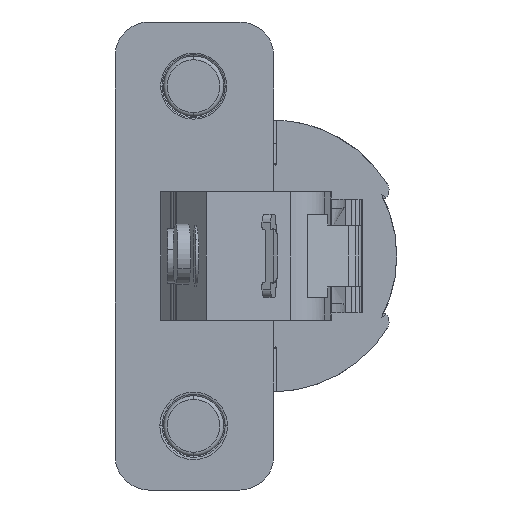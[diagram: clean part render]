
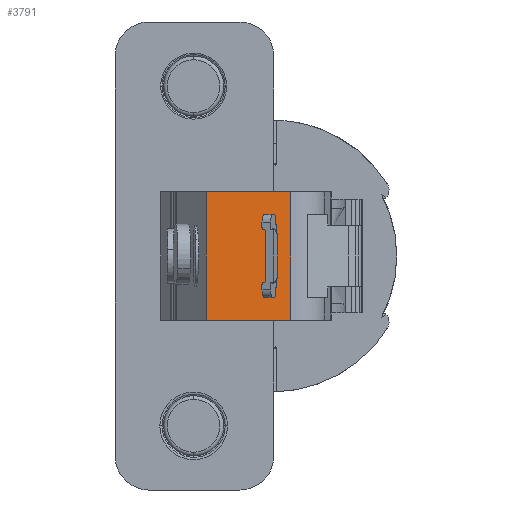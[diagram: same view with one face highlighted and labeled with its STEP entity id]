
A CAD part, left-side view. The second image highlights one B-rep face of the part: STEP entity #3791.
In plain terms, the highlighted planar face has unit normal (-0.997, -0.081, 0).
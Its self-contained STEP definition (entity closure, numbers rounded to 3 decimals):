
#43 = VERTEX_POINT ( 'NONE', #1302 ) ;
#149 = VERTEX_POINT ( 'NONE', #4550 ) ;
#368 = LINE ( 'NONE', #3302, #7829 ) ;
#495 = VERTEX_POINT ( 'NONE', #7207 ) ;
#537 = FACE_BOUND ( 'NONE', #9036, .T. ) ;
#635 = VECTOR ( 'NONE', #7221, 1000. ) ;
#704 = DIRECTION ( 'NONE',  ( 0.997, 0.081, 0. ) ) ;
#762 = LINE ( 'NONE', #7884, #635 ) ;
#1044 = EDGE_CURVE ( 'NONE', #43, #9307, #5259, .T. ) ;
#1302 = CARTESIAN_POINT ( 'NONE',  ( -78.577, 18.348, -3.133 ) ) ;
#1346 = CARTESIAN_POINT ( 'NONE',  ( -78.36, 15.673, -19.533 ) ) ;
#1447 = ORIENTED_EDGE ( 'NONE', *, *, #2848, .F. ) ;
#1501 = ORIENTED_EDGE ( 'NONE', *, *, #4843, .T. ) ;
#1725 = EDGE_CURVE ( 'NONE', #8304, #8480, #4923, .T. ) ;
#1742 = VECTOR ( 'NONE', #2145, 1000. ) ;
#2145 = DIRECTION ( 'NONE',  ( 0., 0., 1. ) ) ;
#2149 = FACE_OUTER_BOUND ( 'NONE', #5169, .T. ) ;
#2231 = ORIENTED_EDGE ( 'NONE', *, *, #1044, .T. ) ;
#2332 = DIRECTION ( 'NONE',  ( -0.081, 0.997, 0. ) ) ;
#2368 = VERTEX_POINT ( 'NONE', #7615 ) ;
#2462 = CARTESIAN_POINT ( 'NONE',  ( -78.423, 16.443, -7.533 ) ) ;
#2634 = LINE ( 'NONE', #3898, #8587 ) ;
#2698 = CARTESIAN_POINT ( 'NONE',  ( -78.423, 16.443, -23.533 ) ) ;
#2725 = ORIENTED_EDGE ( 'NONE', *, *, #4778, .F. ) ;
#2812 = ORIENTED_EDGE ( 'NONE', *, *, #7138, .T. ) ;
#2848 = EDGE_CURVE ( 'NONE', #6232, #9307, #2634, .T. ) ;
#3302 = CARTESIAN_POINT ( 'NONE',  ( -79.413, 28.65, -7.533 ) ) ;
#3525 = DIRECTION ( 'NONE',  ( 0.081, -0.997, 0. ) ) ;
#3791 = ADVANCED_FACE ( 'NONE', ( #537, #2149 ), #8631, .F. ) ;
#3898 = CARTESIAN_POINT ( 'NONE',  ( -78.675, 19.547, -85.824 ) ) ;
#4485 = CARTESIAN_POINT ( 'NONE',  ( -79.209, 26.131, -3.133 ) ) ;
#4550 = CARTESIAN_POINT ( 'NONE',  ( -79.33, 27.627, -7.533 ) ) ;
#4631 = ORIENTED_EDGE ( 'NONE', *, *, #6389, .F. ) ;
#4778 = EDGE_CURVE ( 'NONE', #8480, #149, #368, .T. ) ;
#4843 = EDGE_CURVE ( 'NONE', #6232, #2368, #9206, .T. ) ;
#4923 = LINE ( 'NONE', #2698, #7153 ) ;
#5083 = DIRECTION ( 'NONE',  ( 0., 0., -1. ) ) ;
#5169 = EDGE_LOOP ( 'NONE', ( #4631, #2725, #7456, #2812 ) ) ;
#5259 = LINE ( 'NONE', #4485, #7364 ) ;
#5311 = VECTOR ( 'NONE', #3525, 1000. ) ;
#5537 = DIRECTION ( 'NONE',  ( 0., 0., -1. ) ) ;
#5746 = LINE ( 'NONE', #8578, #1742 ) ;
#5835 = LINE ( 'NONE', #6517, #7134 ) ;
#5867 = ORIENTED_EDGE ( 'NONE', *, *, #8037, .F. ) ;
#6223 = CARTESIAN_POINT ( 'NONE',  ( -78.675, 19.547, 5.067 ) ) ;
#6228 = AXIS2_PLACEMENT_3D ( 'NONE', #1346, #704, #5083 ) ;
#6232 = VERTEX_POINT ( 'NONE', #6223 ) ;
#6389 = EDGE_CURVE ( 'NONE', #149, #495, #5746, .T. ) ;
#6517 = CARTESIAN_POINT ( 'NONE',  ( -78.36, 15.673, 9.467 ) ) ;
#6555 = DIRECTION ( 'NONE',  ( -0.081, 0.997, 0. ) ) ;
#6944 = CARTESIAN_POINT ( 'NONE',  ( -78.423, 16.443, 9.467 ) ) ;
#7026 = DIRECTION ( 'NONE',  ( 0., 0., -1. ) ) ;
#7134 = VECTOR ( 'NONE', #2332, 1000. ) ;
#7138 = EDGE_CURVE ( 'NONE', #8304, #495, #5835, .T. ) ;
#7153 = VECTOR ( 'NONE', #7026, 1000. ) ;
#7207 = CARTESIAN_POINT ( 'NONE',  ( -79.33, 27.627, 9.467 ) ) ;
#7221 = DIRECTION ( 'NONE',  ( 0., 0., 1. ) ) ;
#7224 = CARTESIAN_POINT ( 'NONE',  ( -78.675, 19.547, -3.133 ) ) ;
#7364 = VECTOR ( 'NONE', #6555, 1000. ) ;
#7456 = ORIENTED_EDGE ( 'NONE', *, *, #1725, .F. ) ;
#7615 = CARTESIAN_POINT ( 'NONE',  ( -78.577, 18.348, 5.067 ) ) ;
#7622 = DIRECTION ( 'NONE',  ( -0.081, 0.997, 0. ) ) ;
#7829 = VECTOR ( 'NONE', #7622, 1000. ) ;
#7884 = CARTESIAN_POINT ( 'NONE',  ( -78.577, 18.348, -85.824 ) ) ;
#7887 = CARTESIAN_POINT ( 'NONE',  ( -79.209, 26.131, 5.067 ) ) ;
#8037 = EDGE_CURVE ( 'NONE', #43, #2368, #762, .T. ) ;
#8304 = VERTEX_POINT ( 'NONE', #6944 ) ;
#8480 = VERTEX_POINT ( 'NONE', #2462 ) ;
#8578 = CARTESIAN_POINT ( 'NONE',  ( -79.33, 27.627, 9.467 ) ) ;
#8587 = VECTOR ( 'NONE', #5537, 1000. ) ;
#8631 = PLANE ( 'NONE',  #6228 ) ;
#9036 = EDGE_LOOP ( 'NONE', ( #1447, #1501, #5867, #2231 ) ) ;
#9206 = LINE ( 'NONE', #7887, #5311 ) ;
#9307 = VERTEX_POINT ( 'NONE', #7224 ) ;
